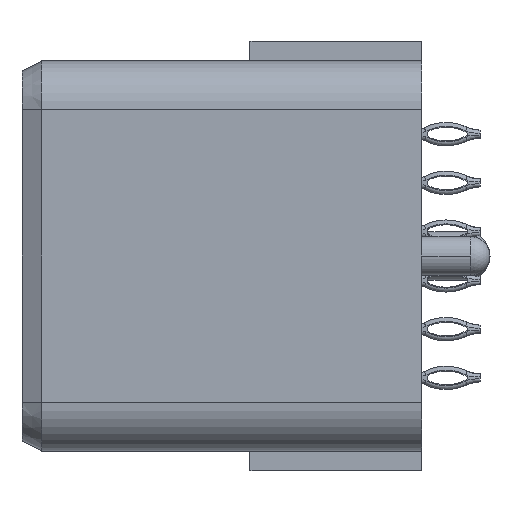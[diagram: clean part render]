
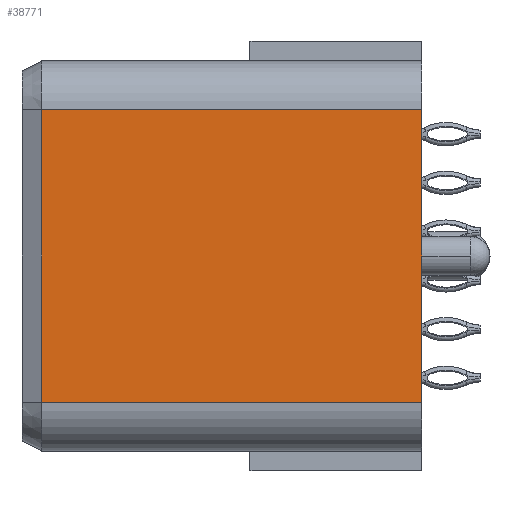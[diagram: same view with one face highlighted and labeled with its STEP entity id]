
A CAD part, left-side view. The second image highlights one B-rep face of the part: STEP entity #38771.
In plain terms, the highlighted planar face has unit normal (-1, 0, 0).
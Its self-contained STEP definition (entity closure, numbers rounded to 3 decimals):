
#30621=FACE_OUTER_BOUND('',#48722,.T.);
#38771=ADVANCED_FACE('',(#30621),#40515,.T.);
#40515=PLANE('',#116259);
#48722=EDGE_LOOP('',(#72543,#72544,#72545,#72546));
#72543=ORIENTED_EDGE('',*,*,#94771,.F.);
#72544=ORIENTED_EDGE('',*,*,#94768,.F.);
#72545=ORIENTED_EDGE('',*,*,#94772,.F.);
#72546=ORIENTED_EDGE('',*,*,#94773,.F.);
#82313=VERTEX_POINT('',#197799);
#82317=VERTEX_POINT('',#197808);
#82319=VERTEX_POINT('',#197814);
#82320=VERTEX_POINT('',#197816);
#94768=EDGE_CURVE('',#82313,#82317,#101524,.T.);
#94771=EDGE_CURVE('',#82317,#82319,#101526,.T.);
#94772=EDGE_CURVE('',#82320,#82313,#101527,.T.);
#94773=EDGE_CURVE('',#82319,#82320,#101528,.T.);
#101524=LINE('',#197807,#108397);
#101526=LINE('',#197813,#108399);
#101527=LINE('',#197815,#108400);
#101528=LINE('',#197817,#108401);
#108397=VECTOR('',#137806,1.);
#108399=VECTOR('',#137812,1.);
#108400=VECTOR('',#137813,1.);
#108401=VECTOR('',#137814,1.);
#116259=AXIS2_PLACEMENT_3D('',#197818,#137815,#137816);
#137806=DIRECTION('',(0.,-1.,0.));
#137812=DIRECTION('',(0.,0.,-1.));
#137813=DIRECTION('',(0.,0.,1.));
#137814=DIRECTION('',(0.,1.,0.));
#137815=DIRECTION('',(-1.,0.,0.));
#137816=DIRECTION('',(0.,0.,-1.));
#197799=CARTESIAN_POINT('',(-44.05,19.5,7.5));
#197807=CARTESIAN_POINT('',(-44.05,19.5,7.5));
#197808=CARTESIAN_POINT('',(-44.05,0.,7.5));
#197813=CARTESIAN_POINT('',(-44.05,0.,7.5));
#197814=CARTESIAN_POINT('',(-44.05,0.,-7.5));
#197815=CARTESIAN_POINT('',(-44.05,19.5,-7.5));
#197816=CARTESIAN_POINT('',(-44.05,19.5,-7.5));
#197817=CARTESIAN_POINT('',(-44.05,0.,-7.5));
#197818=CARTESIAN_POINT('',(-44.05,25.513,7.75));
